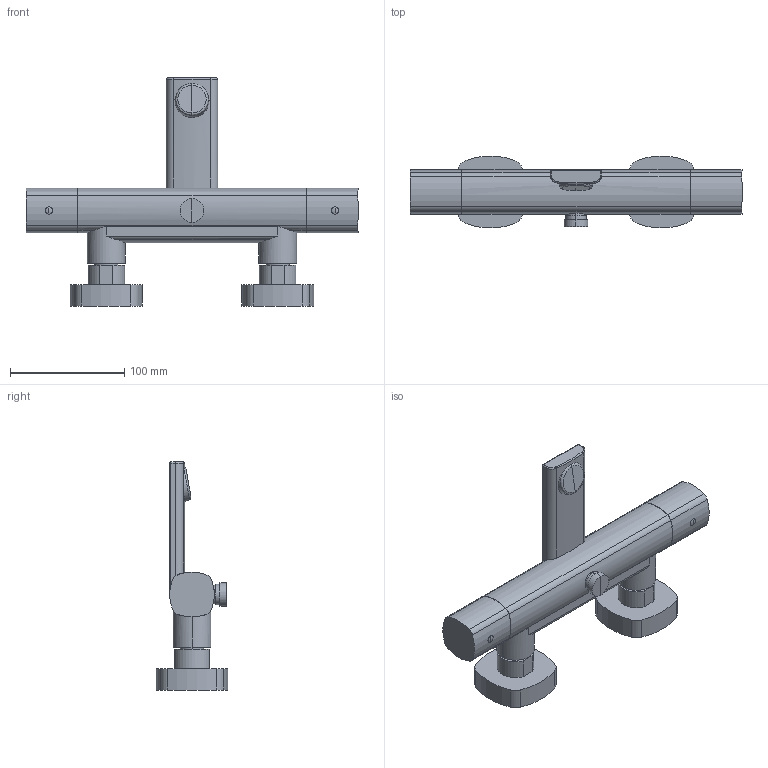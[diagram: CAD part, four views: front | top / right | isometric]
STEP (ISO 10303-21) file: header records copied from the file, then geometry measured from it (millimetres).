
FILE_DESCRIPTION(('FreeCAD Model'),'2;1');
FILE_NAME('Open CASCADE Shape Model','2024-11-19T14:08:01',('Author'),( ''),'Open CASCADE STEP processor 7.6','FreeCAD','Unknown');
FILE_SCHEMA(('AUTOMOTIVE_DESIGN { 1 0 10303 214 1 1 1 1 }'));
Length unit declared in the file: millimetre
Products named in the file (4): TopLevelAssembly; Obrót profilu; Obrót profilu001; Połączona geometria bryłowa
Assembly tree (3 placements, depth 2):
  TopLevelAssembly
    Obrót profilu
    Obrót profilu001
    Połączona geometria bryłowa
Bounding box: 290.6 x 62.89 x 199.6 mm (x, y, z)
Volume: 682651.3 mm3; surface area: 84999.1 mm2
Topology: 3 solids, 3 shells, 128 faces, 305 edges, 189 vertices
Faces by surface type: cylinder 79, plane 38, bspline 11
Entity records: 4090 total; most frequent: CARTESIAN_POINT 1021, DIRECTION 670, ORIENTED_EDGE 602, EDGE_CURVE 301, AXIS2_PLACEMENT_3D 277, VERTEX_POINT 189, CIRCLE 150, FACE_BOUND 138
